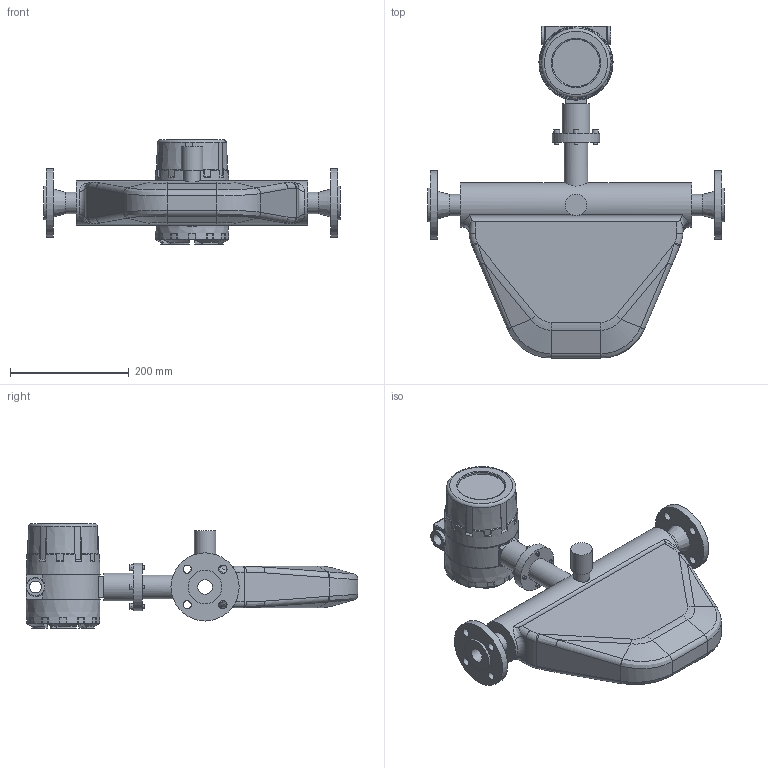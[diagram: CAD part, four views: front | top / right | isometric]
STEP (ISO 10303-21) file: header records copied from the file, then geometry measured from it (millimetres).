
FILE_DESCRIPTION(('STEP AP203'), '1');
FILE_NAME('Äó 25 - 4 ÌÏà - 100 Ñ', '', ('UNSPECIFIED'), ('UNSPECIFIED'), 'ASCON STEP Converter 1.6', 'ASCON Math Kernel', '');
FILE_SCHEMA(('CONFIG_CONTROL_DESIGN'));
Length unit declared in the file: millimetre
Products named in the file (1): 栖闉罻2
Bounding box: 500 x 560 x 176 mm (x, y, z)
Volume: 8312889 mm3; surface area: 475288.4 mm2
Topology: 1 solids, 1 shells, 399 faces, 985 edges, 601 vertices
Faces by surface type: plane 197, cylinder 106, cone 52, bspline 28, torus 12, sphere 4
Full cylindrical faces by diameter (mm): 6.35 x4, 9.525 x4, 14 x8, 20 x1, 25 x1, 27 x1, 32 x2, 36 x3, 40 x1, 47 x1, 57 x2, 75 x1, 80 x2, 115 x2
Entity records: 18421 total; most frequent: CARTESIAN_POINT 6254, ORIENTED_EDGE 1838, DIRECTION 1808, EDGE_CURVE 919, AXIS2_PLACEMENT_3D 710, VERTEX_POINT 597, EDGE_LOOP 494, FACE_BOUND 421
